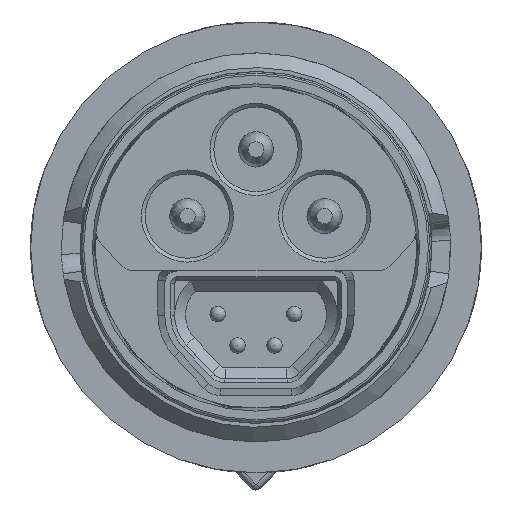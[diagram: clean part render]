
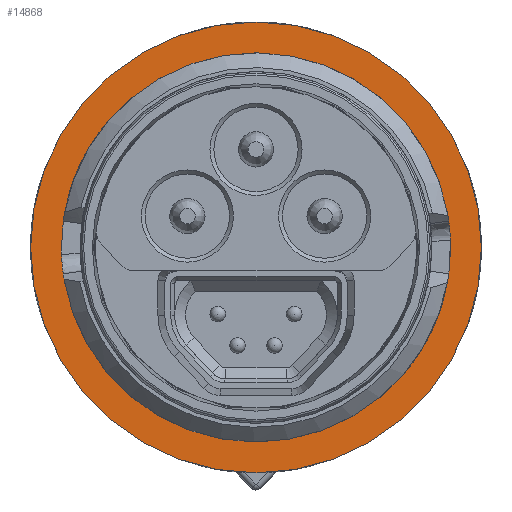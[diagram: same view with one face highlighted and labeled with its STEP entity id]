
A CAD part, front view. The second image highlights one B-rep face of the part: STEP entity #14868.
In plain terms, the highlighted planar face has unit normal (0, -1, 0).
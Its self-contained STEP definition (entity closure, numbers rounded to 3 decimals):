
#148=FACE_BOUND('',#2384,.T.);
#866=PLANE('',#15787);
#1597=FACE_OUTER_BOUND('',#2383,.T.);
#2383=EDGE_LOOP('',(#13180));
#2384=EDGE_LOOP('',(#13181));
#5941=CIRCLE('',#15755,9.925);
#5958=CIRCLE('',#15788,11.5);
#7214=VERTEX_POINT('',#25889);
#7270=VERTEX_POINT('',#26594);
#9172=EDGE_CURVE('',#7214,#7214,#5941,.T.);
#9258=EDGE_CURVE('',#7270,#7270,#5958,.T.);
#13180=ORIENTED_EDGE('',*,*,#9258,.F.);
#13181=ORIENTED_EDGE('',*,*,#9172,.T.);
#14868=ADVANCED_FACE('',(#1597,#148),#866,.T.);
#15755=AXIS2_PLACEMENT_3D('',#25890,#19122,#19123);
#15787=AXIS2_PLACEMENT_3D('',#26593,#19225,#19226);
#15788=AXIS2_PLACEMENT_3D('',#26595,#19227,#19228);
#19122=DIRECTION('center_axis',(0.,1.,0.));
#19123=DIRECTION('ref_axis',(0.,0.,
1.));
#19225=DIRECTION('center_axis',(0.,-1.,0.));
#19226=DIRECTION('ref_axis',(0.,0.,
-1.));
#19227=DIRECTION('center_axis',(0.,1.,0.));
#19228=DIRECTION('ref_axis',(0.,0.,
1.));
#25889=CARTESIAN_POINT('',(-9.925,22.3,0.));
#25890=CARTESIAN_POINT('Origin',(0.,22.3,0.));
#26593=CARTESIAN_POINT('Origin',(11.5,22.3,0.));
#26594=CARTESIAN_POINT('',(-11.5,22.3,0.));
#26595=CARTESIAN_POINT('Origin',(0.,22.3,0.));
